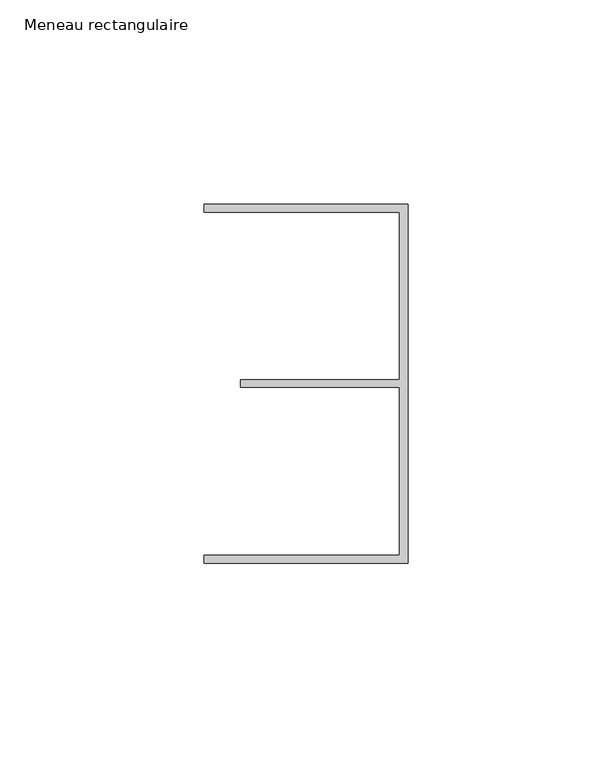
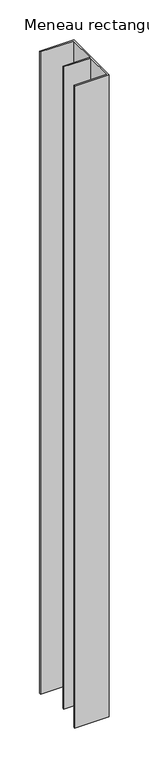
"""IFC4 building model written with IfcOpenShell, lengths in millimetres: member geometry, Meneau rectangulaire : LISSERIE_SOL_COIFFANTE 94-KLS00-P80-SD41ALU."""

from ifc_helpers import new_model, si_unit, frame, origin, place, context, project, spatial, polyline, outline, extrude, source, transform, mapped, element, save


def meneau_rectangulaire_caded4ee(model_context):
    return source(origin(), model_context, "Body", "SweptSolid", [
        extrude(outline(polyline([(0.0, -44.0), (-50.0, -44.0), (-50.0, -42.0), (-2.0, -42.0), (-2.0, -0.9316478), (-41.0, -0.9316478), (-41.0, 0.9316478), (-2.0, 0.9316478), (-2.0, 42.0), (-50.0, 42.0), (-50.0, 44.0), (0.0, 44.0), (0.0, -44.0)])), frame((0.0, 0.0, -985.0), z_axis=(0.0, 0.0, 1.0), x_axis=(1.0, 0.0, 0.0)), (0.0, 0.0, 1.0), 985.0),
    ])


if __name__ == "__main__":
    model = new_model("IFC4")
    model_context = context("Model", 3, world=origin())
    ifc_project = project(units=[si_unit("LENGTHUNIT", "METRE", prefix="MILLI")], contexts=[model_context])
    site = spatial("IfcSite", under=ifc_project)
    building = spatial("IfcBuilding", under=site)
    placement = place(None, origin())
    meneau_rectangulaire_shape = meneau_rectangulaire_caded4ee(model_context)
    element("IfcMember", 1, ObjectType="Meneau rectangulaire : LISSERIE_SOL_COIFFANTE 94-KLS00-P80-SD41ALU", at=placement, inside=building, context=model_context, shape_type="MappedRepresentation", body=[
        mapped(meneau_rectangulaire_shape, transform((0.0, 0.0, 0.0), x_axis=(1.0, 0.0, 0.0), y_axis=(0.0, 1.0, 0.0), z_axis=(0.0, 0.0, 1.0))),
    ])
    save(model, "model.ifc")
